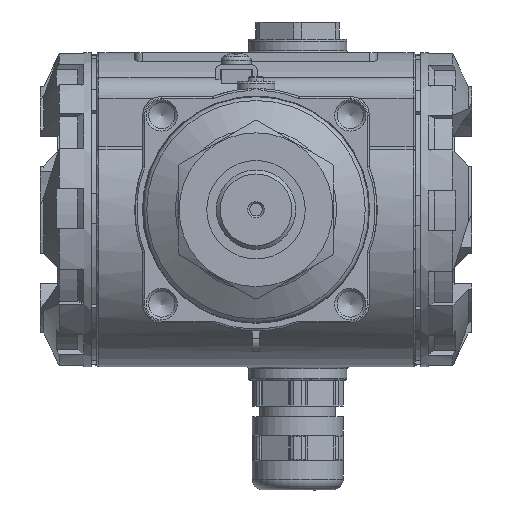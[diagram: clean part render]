
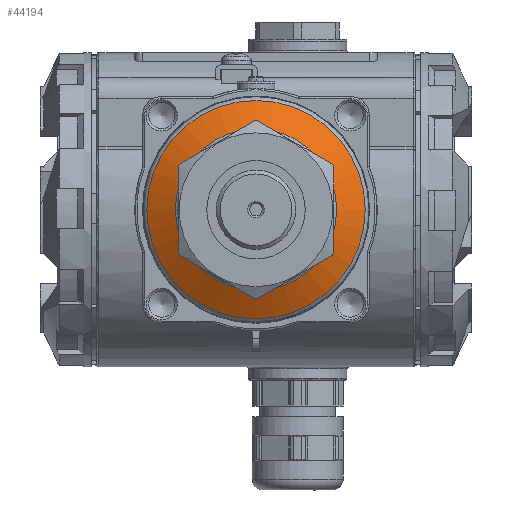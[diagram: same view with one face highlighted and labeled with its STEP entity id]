
A CAD part, front view. The second image highlights one B-rep face of the part: STEP entity #44194.
In plain terms, the highlighted conical face has half-angle 60 degrees and reference radius 25.075 mm.
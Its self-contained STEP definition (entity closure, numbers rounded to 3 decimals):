
#10033=CONICAL_SURFACE('',#46700,25.075,60.);
#10557=FACE_BOUND('',#13368,.T.);
#10881=FACE_OUTER_BOUND('',#13367,.T.);
#13367=EDGE_LOOP('',(#27646));
#13368=EDGE_LOOP('',(#27647));
#16078=CIRCLE('',#46699,21.3);
#16079=CIRCLE('',#46701,28.85);
#17050=VERTEX_POINT('',#60475);
#17051=VERTEX_POINT('',#60478);
#21242=EDGE_CURVE('',#17050,#17050,#16078,.T.);
#21243=EDGE_CURVE('',#17051,#17051,#16079,.T.);
#27646=ORIENTED_EDGE('',*,*,#21243,.F.);
#27647=ORIENTED_EDGE('',*,*,#21242,.T.);
#44194=ADVANCED_FACE('',(#10881,#10557),#10033,.T.);
#46699=AXIS2_PLACEMENT_3D('',#60476,#49933,#49934);
#46700=AXIS2_PLACEMENT_3D('',#60477,#49935,#49936);
#46701=AXIS2_PLACEMENT_3D('',#60479,#49937,#49938);
#49933=DIRECTION('center_axis',(0.,1.,0.));
#49934=DIRECTION('ref_axis',(-1.,0.,0.));
#49935=DIRECTION('center_axis',(0.,1.,0.));
#49936=DIRECTION('ref_axis',(-1.,0.,0.));
#49937=DIRECTION('center_axis',(0.,1.,0.));
#49938=DIRECTION('ref_axis',(-1.,0.,0.));
#60475=CARTESIAN_POINT('',(-21.3,-77.686,0.));
#60476=CARTESIAN_POINT('Origin',(0.,-77.686,
0.));
#60477=CARTESIAN_POINT('Origin',(0.,-75.507,
0.));
#60478=CARTESIAN_POINT('',(-28.85,-73.327,0.));
#60479=CARTESIAN_POINT('Origin',(0.,-73.327,
0.));
